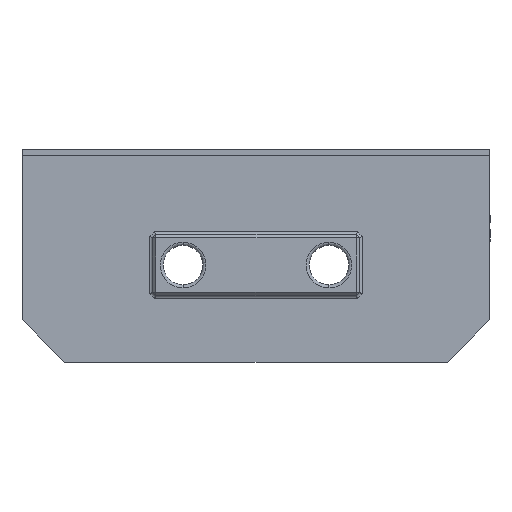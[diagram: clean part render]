
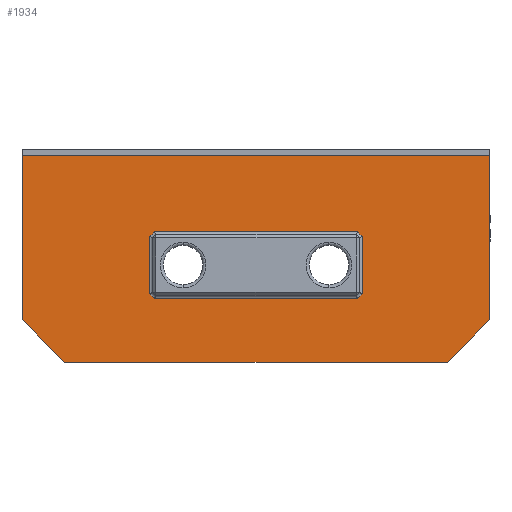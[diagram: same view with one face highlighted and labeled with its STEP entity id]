
A CAD part, front view. The second image highlights one B-rep face of the part: STEP entity #1934.
In plain terms, the highlighted planar face has unit normal (0, -1, 0).
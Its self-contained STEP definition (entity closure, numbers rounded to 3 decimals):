
#122 = LINE ( 'NONE', #2691, #6103 ) ;
#240 = LINE ( 'NONE', #13311, #3964 ) ;
#337 = CARTESIAN_POINT ( 'NONE',  ( 38.5, 38., -31. ) ) ;
#419 = EDGE_CURVE ( 'NONE', #2767, #676, #4971, .T. ) ;
#530 = DIRECTION ( 'NONE',  ( 0., 0., 1. ) ) ;
#676 = VERTEX_POINT ( 'NONE', #1613 ) ;
#780 = CARTESIAN_POINT ( 'NONE',  ( 17.5, 38., -44.293 ) ) ;
#939 = VECTOR ( 'NONE', #6987, 1000. ) ;
#1022 = VECTOR ( 'NONE', #8202, 1000. ) ;
#1066 = VERTEX_POINT ( 'NONE', #11901 ) ;
#1239 = VECTOR ( 'NONE', #5319, 1000. ) ;
#1423 = DIRECTION ( 'NONE',  ( 0.707, 0., 0.707 ) ) ;
#1613 = CARTESIAN_POINT ( 'NONE',  ( -16.707, 38., -43.5 ) ) ;
#1616 = CARTESIAN_POINT ( 'NONE',  ( 38.5, 38., -31. ) ) ;
#1672 = EDGE_LOOP ( 'NONE', ( #10676, #12473, #16377, #11251, #2885, #13078 ) ) ;
#1838 = LINE ( 'NONE', #6039, #939 ) ;
#1934 = ADVANCED_FACE ( 'NONE', ( #10690, #15804 ), #14607, .F. ) ;
#2407 = EDGE_CURVE ( 'NONE', #6975, #2767, #3351, .T. ) ;
#2457 = CARTESIAN_POINT ( 'NONE',  ( 16.707, 38., -43.5 ) ) ;
#2594 = ORIENTED_EDGE ( 'NONE', *, *, #7425, .F. ) ;
#2691 = CARTESIAN_POINT ( 'NONE',  ( -16.707, 38., -43.5 ) ) ;
#2767 = VERTEX_POINT ( 'NONE', #2457 ) ;
#2885 = ORIENTED_EDGE ( 'NONE', *, *, #9373, .F. ) ;
#2988 = CARTESIAN_POINT ( 'NONE',  ( -16.707, 38., -54.5 ) ) ;
#3322 = CARTESIAN_POINT ( 'NONE',  ( 17.5, 38., -53.707 ) ) ;
#3351 = LINE ( 'NONE', #780, #3658 ) ;
#3611 = VERTEX_POINT ( 'NONE', #13686 ) ;
#3658 = VECTOR ( 'NONE', #14883, 1000. ) ;
#3964 = VECTOR ( 'NONE', #1423, 1000. ) ;
#4018 = EDGE_CURVE ( 'NONE', #1066, #3611, #7269, .T. ) ;
#4046 = CARTESIAN_POINT ( 'NONE',  ( -17.5, 38., -44.293 ) ) ;
#4068 = CARTESIAN_POINT ( 'NONE',  ( 38.5, 38., -58. ) ) ;
#4099 = ORIENTED_EDGE ( 'NONE', *, *, #5367, .F. ) ;
#4114 = CARTESIAN_POINT ( 'NONE',  ( 38.5, 38., -31. ) ) ;
#4146 = ORIENTED_EDGE ( 'NONE', *, *, #7767, .F. ) ;
#4154 = DIRECTION ( 'NONE',  ( -0.707, 0., -0.707 ) ) ;
#4408 = VERTEX_POINT ( 'NONE', #5072 ) ;
#4638 = DIRECTION ( 'NONE',  ( -0.707, 0., 0.707 ) ) ;
#4679 = DIRECTION ( 'NONE',  ( 0., 0., 1. ) ) ;
#4897 = ORIENTED_EDGE ( 'NONE', *, *, #14515, .F. ) ;
#4945 = LINE ( 'NONE', #12709, #10447 ) ;
#4971 = LINE ( 'NONE', #8647, #9421 ) ;
#4972 = ORIENTED_EDGE ( 'NONE', *, *, #2407, .F. ) ;
#5004 = VECTOR ( 'NONE', #4638, 1000. ) ;
#5072 = CARTESIAN_POINT ( 'NONE',  ( -38.5, 38., -31. ) ) ;
#5159 = VERTEX_POINT ( 'NONE', #4046 ) ;
#5319 = DIRECTION ( 'NONE',  ( 1., 0., 0. ) ) ;
#5367 = EDGE_CURVE ( 'NONE', #5159, #5959, #11522, .T. ) ;
#5479 = CARTESIAN_POINT ( 'NONE',  ( 38.5, 38., -65. ) ) ;
#5792 = LINE ( 'NONE', #12346, #14593 ) ;
#5959 = VERTEX_POINT ( 'NONE', #12500 ) ;
#6039 = CARTESIAN_POINT ( 'NONE',  ( 38.5, 38., -31. ) ) ;
#6103 = VECTOR ( 'NONE', #4154, 1000. ) ;
#6254 = CARTESIAN_POINT ( 'NONE',  ( 31.5, 38., -65. ) ) ;
#6329 = DIRECTION ( 'NONE',  ( -1., 0., 0. ) ) ;
#6975 = VERTEX_POINT ( 'NONE', #9930 ) ;
#6982 = CARTESIAN_POINT ( 'NONE',  ( 38.5, 38., -58. ) ) ;
#6987 = DIRECTION ( 'NONE',  ( 0., 0., -1. ) ) ;
#7269 = LINE ( 'NONE', #16883, #5004 ) ;
#7425 = EDGE_CURVE ( 'NONE', #11161, #14017, #240, .T. ) ;
#7767 = EDGE_CURVE ( 'NONE', #14017, #6975, #5792, .T. ) ;
#7791 = EDGE_CURVE ( 'NONE', #9404, #8746, #1838, .T. ) ;
#8059 = DIRECTION ( 'NONE',  ( 0.707, 0., -0.707 ) ) ;
#8157 = LINE ( 'NONE', #9345, #9473 ) ;
#8202 = DIRECTION ( 'NONE',  ( -1., 0., 0. ) ) ;
#8647 = CARTESIAN_POINT ( 'NONE',  ( 38.5, 38., -43.5 ) ) ;
#8746 = VERTEX_POINT ( 'NONE', #4068 ) ;
#9317 = LINE ( 'NONE', #1616, #1239 ) ;
#9336 = CARTESIAN_POINT ( 'NONE',  ( -17.5, 38., -53.707 ) ) ;
#9345 = CARTESIAN_POINT ( 'NONE',  ( -38.5, 38., -31. ) ) ;
#9373 = EDGE_CURVE ( 'NONE', #4408, #9404, #9317, .T. ) ;
#9404 = VERTEX_POINT ( 'NONE', #4114 ) ;
#9421 = VECTOR ( 'NONE', #6329, 1000. ) ;
#9473 = VECTOR ( 'NONE', #530, 1000. ) ;
#9539 = LINE ( 'NONE', #6982, #12465 ) ;
#9871 = LINE ( 'NONE', #5479, #1022 ) ;
#9930 = CARTESIAN_POINT ( 'NONE',  ( 17.5, 38., -44.293 ) ) ;
#9957 = VERTEX_POINT ( 'NONE', #6254 ) ;
#10151 = AXIS2_PLACEMENT_3D ( 'NONE', #337, #16916, #13070 ) ;
#10228 = DIRECTION ( 'NONE',  ( 1., 0., 0. ) ) ;
#10447 = VECTOR ( 'NONE', #10228, 1000. ) ;
#10549 = ORIENTED_EDGE ( 'NONE', *, *, #419, .F. ) ;
#10637 = EDGE_LOOP ( 'NONE', ( #11111, #4897, #4099, #14533, #10549, #4972, #4146, #2594 ) ) ;
#10676 = ORIENTED_EDGE ( 'NONE', *, *, #4018, .F. ) ;
#10690 = FACE_OUTER_BOUND ( 'NONE', #1672, .T. ) ;
#10733 = CARTESIAN_POINT ( 'NONE',  ( 16.707, 38., -54.5 ) ) ;
#10763 = VECTOR ( 'NONE', #14168, 1000. ) ;
#10784 = EDGE_CURVE ( 'NONE', #8746, #9957, #9539, .T. ) ;
#11033 = LINE ( 'NONE', #9336, #13976 ) ;
#11111 = ORIENTED_EDGE ( 'NONE', *, *, #14117, .F. ) ;
#11161 = VERTEX_POINT ( 'NONE', #10733 ) ;
#11197 = CARTESIAN_POINT ( 'NONE',  ( -17.5, 38., -31. ) ) ;
#11251 = ORIENTED_EDGE ( 'NONE', *, *, #7791, .F. ) ;
#11424 = EDGE_CURVE ( 'NONE', #3611, #4408, #8157, .T. ) ;
#11522 = LINE ( 'NONE', #11197, #10763 ) ;
#11901 = CARTESIAN_POINT ( 'NONE',  ( -31.5, 38., -65. ) ) ;
#12346 = CARTESIAN_POINT ( 'NONE',  ( 17.5, 38., -31. ) ) ;
#12465 = VECTOR ( 'NONE', #14656, 1000. ) ;
#12473 = ORIENTED_EDGE ( 'NONE', *, *, #12906, .F. ) ;
#12500 = CARTESIAN_POINT ( 'NONE',  ( -17.5, 38., -53.707 ) ) ;
#12709 = CARTESIAN_POINT ( 'NONE',  ( 38.5, 38., -54.5 ) ) ;
#12906 = EDGE_CURVE ( 'NONE', #9957, #1066, #9871, .T. ) ;
#13070 = DIRECTION ( 'NONE',  ( 0., 0., 1. ) ) ;
#13078 = ORIENTED_EDGE ( 'NONE', *, *, #11424, .F. ) ;
#13311 = CARTESIAN_POINT ( 'NONE',  ( 16.707, 38., -54.5 ) ) ;
#13646 = VERTEX_POINT ( 'NONE', #2988 ) ;
#13686 = CARTESIAN_POINT ( 'NONE',  ( -38.5, 38., -58. ) ) ;
#13976 = VECTOR ( 'NONE', #8059, 1000. ) ;
#14017 = VERTEX_POINT ( 'NONE', #3322 ) ;
#14117 = EDGE_CURVE ( 'NONE', #13646, #11161, #4945, .T. ) ;
#14168 = DIRECTION ( 'NONE',  ( 0., 0., -1. ) ) ;
#14515 = EDGE_CURVE ( 'NONE', #5959, #13646, #11033, .T. ) ;
#14533 = ORIENTED_EDGE ( 'NONE', *, *, #15190, .F. ) ;
#14593 = VECTOR ( 'NONE', #4679, 1000. ) ;
#14607 = PLANE ( 'NONE',  #10151 ) ;
#14656 = DIRECTION ( 'NONE',  ( -0.707, 0., -0.707 ) ) ;
#14883 = DIRECTION ( 'NONE',  ( -0.707, 0., 0.707 ) ) ;
#15190 = EDGE_CURVE ( 'NONE', #676, #5159, #122, .T. ) ;
#15804 = FACE_BOUND ( 'NONE', #10637, .T. ) ;
#16377 = ORIENTED_EDGE ( 'NONE', *, *, #10784, .F. ) ;
#16883 = CARTESIAN_POINT ( 'NONE',  ( -31.5, 38., -65. ) ) ;
#16916 = DIRECTION ( 'NONE',  ( 0., 1., 0. ) ) ;
